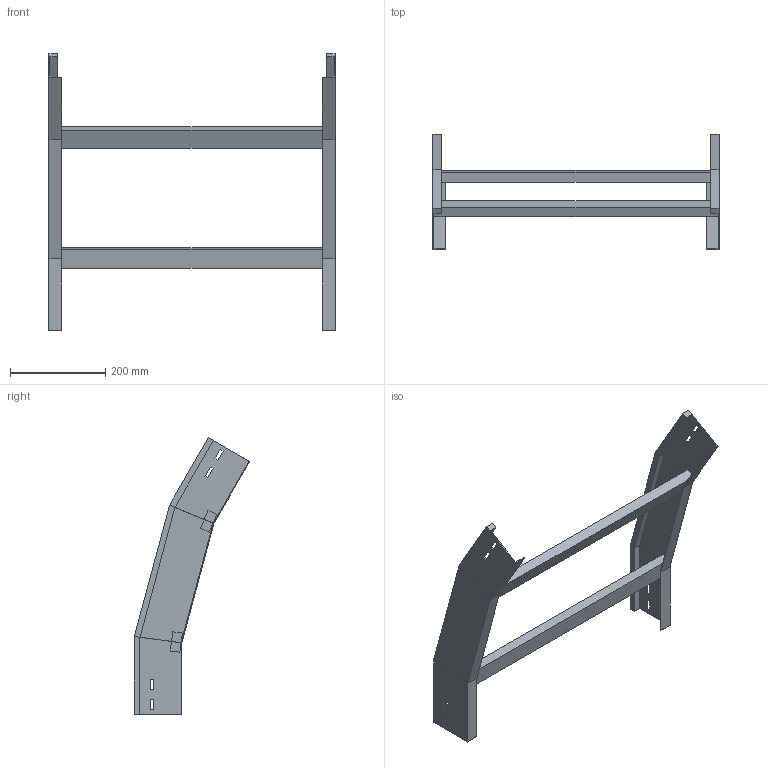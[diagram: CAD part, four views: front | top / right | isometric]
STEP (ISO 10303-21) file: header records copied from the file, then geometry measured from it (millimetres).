
FILE_DESCRIPTION (( 'STEP AP214' ), '1' );
FILE_NAME ('35B5D600.step', '2025-02-21T14:45:50', ( '' ), ( '' ), 'SwSTEP 2.0', 'SolidWorks 2023', '' );
FILE_SCHEMA (( 'AUTOMOTIVE_DESIGN' ));
Length unit declared in the file: millimetre
Products named in the file (3): LONGH.DISCESA_30°_H100_R500; TRAVERSINO_600; 35B5D600
Assembly tree (5 placements, depth 2):
  35B5D600
    LONGH.DISCESA_30°_H100_R500  x2
    TRAVERSINO_600  x3
Bounding box: 600 x 242.03 x 580.08 mm (x, y, z)
Volume: 1969565.4 mm3; surface area: 555151.6 mm2
Topology: 5 solids, 5 shells, 102 faces, 244 edges, 152 vertices
Faces by surface type: plane 102
Entity records: 1480 total; most frequent: CARTESIAN_POINT 244, ORIENTED_EDGE 232, DIRECTION 228, VECTOR 116, EDGE_CURVE 116, LINE 116, VERTEX_POINT 72, AXIS2_PLACEMENT_3D 56
